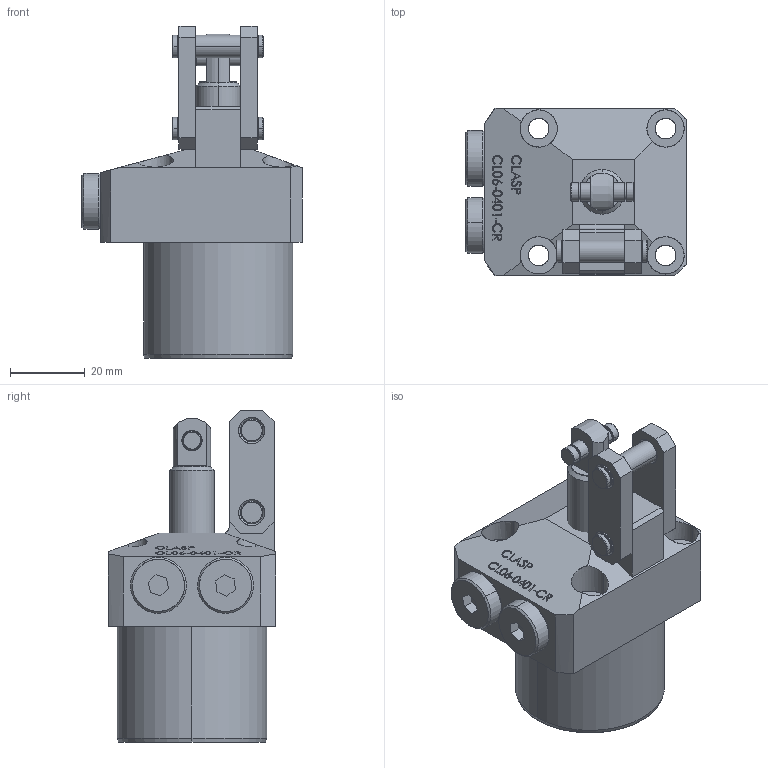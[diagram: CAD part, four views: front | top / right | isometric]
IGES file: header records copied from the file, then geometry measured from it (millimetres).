
Start section: SolidWorks IGES file using analytic representation for surfaces
Global section: file name: D:\karuppas\Clasp\3D model\Link clamp cylinder\CL06-0401-CR\CLO6-0401 cR.IGS; native system: SolidWorks 2017; preprocessor: SolidWorks 2017; author: pc; date: 220705.224946; units: millimetre
Bounding box: 59 x 45 x 89 mm (x, y, z)
Surface area: 24206.8 mm2 (no closed solid volume)
Topology: 0 solids, 0 shells, 418 faces, 6123 edges, 6119 vertices
Faces by surface type: bspline 284, revolution 134
